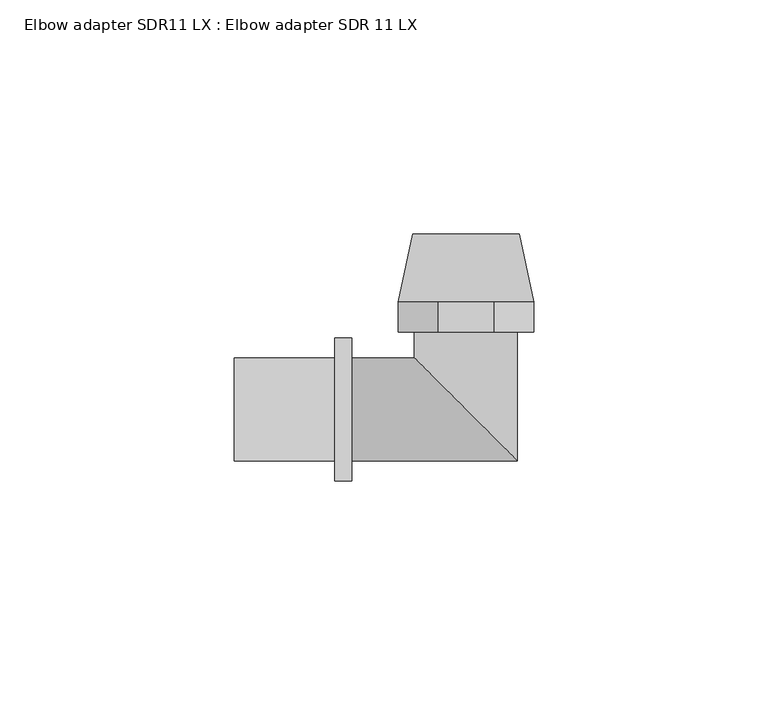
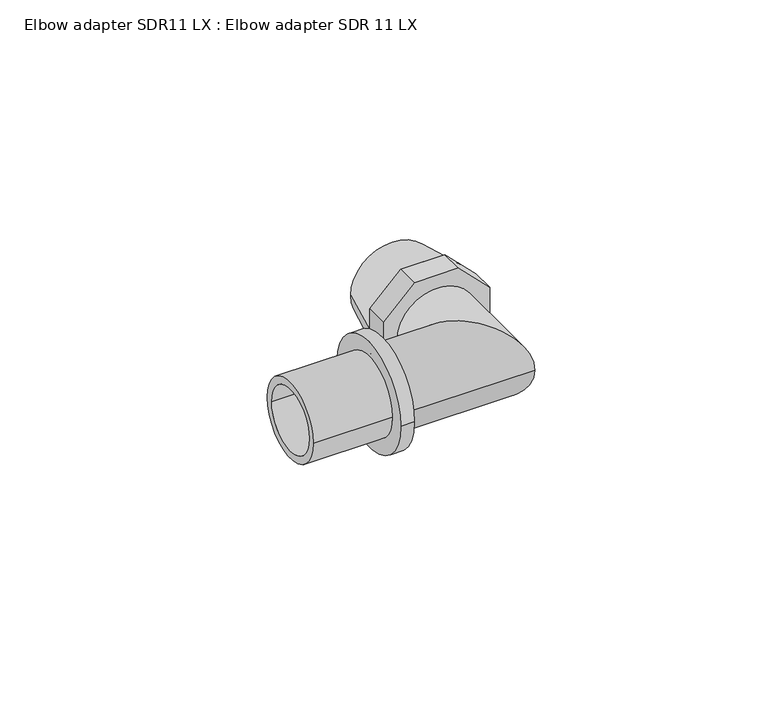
"""IFC4 building model written with IfcOpenShell, lengths in millimetres: pipe fitting geometry, Elbow adapter SDR11 LX : Elbow adapter SDR 11 LX."""

from ifc_helpers import new_model, si_unit, point, frame, origin, origin_2d, place, context, project, spatial, polyline, circle_curve, ellipse_curve, trimmed, segment, composite_curve, outline, extrude, source, transform, mapped, element, save
from ifc_brep_helpers import plane_surface, cylinder_surface, revolved_surface, advanced_brep


def elbow_adapter_sdr11_lx_elbow_adapter_sdr_11_lx_d02e2b3c(model_context):
    return source(origin(), model_context, "Body", "SolidModel", [
        extrude(outline(polyline([(-6.0060967, -14.5), (-14.5, -6.0060967), (-14.5, 6.0060967), (-6.0060967, 14.5), (6.0060967, 14.5), (14.5, 6.0060967), (14.5, -6.0060967), (6.0060967, -14.5), (-6.0060967, -14.5)]), holes=[composite_curve([segment(trimmed(circle_curve(origin_2d(), 9.5), [point((-9.5, 0.0))], [point((9.5, 0.0))], True, "CARTESIAN"), True, "CONTINUOUS"), segment(trimmed(circle_curve(origin_2d(), 9.5), [point((9.5, 0.0))], [point((-9.5, 0.0))], True, "CARTESIAN"), True, "CONTINUOUS")], self_intersect=False)]), frame((0.0, 16.6, 0.0), z_axis=(0.0, 1.0, 0.0), x_axis=(0.0, 0.0, 1.0)), (0.0, 0.0, 1.0), 6.4),
        advanced_brep(
        [(11.4, 37.5, 0.0), (-11.4, 37.5, 0.0), (0.0, 37.5, 9.5), (0.0, 37.5, -9.5), (14.5, 23.0, 0.0), (-14.5, 23.0, 0.0), (0.0, 23.0, -9.5), (0.0, 23.0, 9.5)],
        [
            (0, 1, circle_curve(frame((0.0, 37.5, 0.0), z_axis=(0.0, 1.0, 0.0), x_axis=(1.0, 0.0, 0.0)), 11.4)),
            (1, 0, circle_curve(frame((0.0, 37.5, 0.0), z_axis=(0.0, 1.0, 0.0), x_axis=(-1.0, 0.0, 0.0)), 11.4)),
            (2, 3, circle_curve(frame((0.0, 37.5, 0.0), z_axis=(0.0, -1.0, 0.0), x_axis=(0.0, 0.0, 1.0)), 9.5)),
            (3, 2, circle_curve(frame((0.0, 37.5, 0.0), z_axis=(0.0, -1.0, 0.0), x_axis=(0.0, 0.0, 1.0)), 9.5)),
            (4, 5, circle_curve(frame((0.0, 23.0, 0.0), z_axis=(0.0, -1.0, 0.0), x_axis=(-1.0, 0.0, 0.0)), 14.5)),
            (5, 4, circle_curve(frame((0.0, 23.0, 0.0), z_axis=(0.0, -1.0, 0.0), x_axis=(1.0, 0.0, 0.0)), 14.5)),
            (6, 7, circle_curve(frame((0.0, 23.0, 0.0), z_axis=(0.0, 1.0, 0.0), x_axis=(0.0, 0.0, 1.0)), 9.5)),
            (7, 6, circle_curve(frame((0.0, 23.0, 0.0), z_axis=(0.0, 1.0, 0.0), x_axis=(0.0, 0.0, 1.0)), 9.5)),
            (0, 4),
            (5, 1),
            (6, 3),
            (2, 7),
        ],
        [
            plane_surface(frame((0.0, 37.5, 0.0), z_axis=(0.0, 1.0, 0.0), x_axis=(0.0, 0.0, -1.0))),
            plane_surface(frame((0.0, 23.0, 0.0), z_axis=(0.0, -1.0, 0.0), x_axis=(0.0, 0.0, -1.0))),
            revolved_surface(polyline([(11.39999999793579, 37.50000000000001, 0.0), (14.5, 23.0, 0.0)]), (0.0, 90.8225806, 0.0), (0.0, -1.0, 0.0)),
            revolved_surface(polyline([(-11.39999999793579, 37.50000000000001, 0.0), (-14.5, 23.0, 0.0)]), (0.0, 90.8225806, 0.0), (0.0, -1.0, 0.0)),
            revolved_surface(polyline([(0.0, 37.5, 9.5), (0.0, 23.0, 9.5)]), (0.0, 16.6, 0.0), (0.0, 1.0, 0.0)),
        ],
        [
            (0, [[1, 2], [3, 4]]),
            (1, [[5, 6], [7, 8]]),
            (2, [[-1, 9, -6, 10]]),
            (3, [[-2, -10, -5, -9]]),
            (4, [[11, -3, 12, -7]]),
            (4, [[-11, -8, -12, -4]]),
        ],
    ),
        advanced_brep(
        [(-24.4, -11.0, 0.0), (-24.4, 11.0, 0.0), (-24.4, -8.9, 0.0), (-24.4, 8.9, 0.0), (11.0, -11.0, 0.0), (-11.0, 11.0, 0.0), (8.9, -8.9, 0.0), (-8.9, 8.9, 0.0), (11.0, 23.0, 0.0), (-11.0, 23.0, 0.0), (8.9, 23.0, 0.0), (-8.9, 23.0, 0.0)],
        [
            (0, 1, circle_curve(frame((-24.4, 0.0, 0.0), z_axis=(-1.0, 0.0, 0.0), x_axis=(0.0, 1.0, 0.0)), 11.0)),
            (1, 0, circle_curve(frame((-24.4, 0.0, 0.0), z_axis=(-1.0, 0.0, 0.0), x_axis=(0.0, 1.0, 0.0)), 11.0)),
            (2, 3, circle_curve(frame((-24.4, 0.0, 0.0), z_axis=(1.0, 0.0, 0.0), x_axis=(0.0, 1.0, 0.0)), 8.9)),
            (3, 2, circle_curve(frame((-24.4, 0.0, 0.0), z_axis=(1.0, 0.0, 0.0), x_axis=(0.0, 1.0, 0.0)), 8.9)),
            (0, 4),
            (4, 5, ellipse_curve(frame((0.0, 0.0, 0.0), z_axis=(-0.7071067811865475, -0.7071067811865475, 0.0), x_axis=(-0.7071067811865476, 0.7071067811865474, 0.0)), 15.5563492, 11.0)),
            (5, 1),
            (5, 4, ellipse_curve(frame((0.0, 0.0, 0.0), z_axis=(-0.7071067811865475, -0.7071067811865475, 0.0), x_axis=(-0.7071067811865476, 0.7071067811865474, 0.0)), 15.5563492, 11.0)),
            (2, 6),
            (6, 7, ellipse_curve(frame((0.0, 0.0, 0.0), z_axis=(0.7071067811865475, 0.7071067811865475, 0.0), x_axis=(0.7071067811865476, -0.7071067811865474, 0.0)), 12.5865007, 8.9)),
            (7, 3),
            (7, 6, ellipse_curve(frame((0.0, 0.0, 0.0), z_axis=(0.7071067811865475, 0.7071067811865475, 0.0), x_axis=(0.7071067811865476, -0.7071067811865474, 0.0)), 12.5865007, 8.9)),
            (8, 9, circle_curve(frame((0.0, 23.0, 0.0), z_axis=(0.0, 1.0, 0.0), x_axis=(-1.0, 0.0, 0.0)), 11.0)),
            (9, 8, circle_curve(frame((0.0, 23.0, 0.0), z_axis=(0.0, 1.0, 0.0), x_axis=(-1.0, 0.0, 0.0)), 11.0)),
            (10, 11, circle_curve(frame((0.0, 23.0, 0.0), z_axis=(0.0, -1.0, 0.0), x_axis=(-1.0, 0.0, 0.0)), 8.9)),
            (11, 10, circle_curve(frame((0.0, 23.0, 0.0), z_axis=(0.0, -1.0, 0.0), x_axis=(-1.0, 0.0, 0.0)), 8.9)),
            (4, 8),
            (9, 5),
            (6, 10),
            (11, 7),
        ],
        [
            plane_surface(frame((-24.4, 0.0, 0.0), z_axis=(-1.0, 0.0, 0.0), x_axis=(0.0, 0.0, 1.0))),
            cylinder_surface(frame((-24.4, 0.0, 0.0), z_axis=(-1.0, 0.0, 0.0), x_axis=(0.0, 1.0, 0.0)), 11.0),
            revolved_surface(polyline([(8.899999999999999, 8.9, 0.0), (-24.4, 8.9, 0.0)]), (-24.4, 0.0, 0.0), (1.0, 0.0, 0.0)),
            plane_surface(frame((0.0, 23.0, 0.0), z_axis=(0.0, 1.0, 0.0), x_axis=(0.0, 0.0, 1.0))),
            cylinder_surface(frame((0.0, 0.0, 0.0), z_axis=(0.0, -1.0, 0.0), x_axis=(-1.0, 0.0, 0.0)), 11.0),
            revolved_surface(polyline([(-8.9, 23.0, 0.0), (-8.9, -8.9, 0.0)]), (0.0, 0.0, 0.0), (0.0, 1.0, 0.0)),
        ],
        [
            (0, [[1, 2], [3, 4]]),
            (1, [[-1, 5, 6, 7]]),
            (1, [[-2, -7, 8, -5]]),
            (2, [[-3, 9, 10, 11]]),
            (2, [[-4, -11, 12, -9]]),
            (3, [[13, 14], [15, 16]]),
            (4, [[-6, 17, -14, 18]]),
            (4, [[-8, -18, -13, -17]]),
            (5, [[-10, 19, -16, 20]]),
            (5, [[-12, -20, -15, -19]]),
        ],
    ),
        advanced_brep(
        [(-24.4, 15.25, 0.0), (-24.4, -15.25, 0.0), (-28.0, -15.25, 0.0), (-28.0, 15.25, 0.0), (-28.0, 11.0, 0.0), (-28.0, -11.0, 0.0), (-49.5, -11.0, 0.0), (-49.5, 11.0, 0.0), (-49.5, 8.9, 0.0), (-49.5, -8.9, 0.0), (-24.4, -8.9, 0.0), (-24.4, 8.9, 0.0)],
        [
            (0, 1, circle_curve(frame((-24.4, 0.0, 0.0), z_axis=(-1.0, 0.0, 0.0), x_axis=(0.0, -1.0, 0.0)), 15.25)),
            (1, 2),
            (2, 3, circle_curve(frame((-28.0, 0.0, 0.0), z_axis=(1.0, 0.0, 0.0), x_axis=(0.0, -1.0, 0.0)), 15.25)),
            (3, 0),
            (4, 5, circle_curve(frame((-28.0, 0.0, 0.0), z_axis=(-1.0, 0.0, 0.0), x_axis=(0.0, -1.0, 0.0)), 11.0)),
            (5, 6),
            (6, 7, circle_curve(frame((-49.5, 0.0, 0.0), z_axis=(1.0, 0.0, 0.0), x_axis=(0.0, -1.0, 0.0)), 11.0)),
            (7, 4),
            (8, 9, circle_curve(frame((-49.5, 0.0, 0.0), z_axis=(-1.0, 0.0, 0.0), x_axis=(0.0, -1.0, 0.0)), 8.9)),
            (9, 10),
            (10, 11, circle_curve(frame((-24.4, 0.0, 0.0), z_axis=(1.0, 0.0, 0.0), x_axis=(0.0, -1.0, 0.0)), 8.9)),
            (11, 8),
            (0, 1, circle_curve(frame((-24.4, 0.0, 0.0), z_axis=(1.0, 0.0, 0.0), x_axis=(0.0, 1.0, 0.0)), 15.25)),
            (10, 11, circle_curve(frame((-24.4, 0.0, 0.0), z_axis=(-1.0, 0.0, 0.0), x_axis=(0.0, 1.0, 0.0)), 8.9)),
            (3, 2, circle_curve(frame((-28.0, 0.0, 0.0), z_axis=(1.0, 0.0, 0.0), x_axis=(0.0, 1.0, 0.0)), 15.25)),
            (4, 5, circle_curve(frame((-28.0, 0.0, 0.0), z_axis=(1.0, 0.0, 0.0), x_axis=(0.0, 1.0, 0.0)), 11.0)),
            (7, 6, circle_curve(frame((-49.5, 0.0, 0.0), z_axis=(1.0, 0.0, 0.0), x_axis=(0.0, 1.0, 0.0)), 11.0)),
            (8, 9, circle_curve(frame((-49.5, 0.0, 0.0), z_axis=(1.0, 0.0, 0.0), x_axis=(0.0, 1.0, 0.0)), 8.9)),
        ],
        [
            cylinder_surface(frame((0.0, 0.0, 0.0), z_axis=(1.0, 0.0, 0.0), x_axis=(0.0, -1.0, 0.0)), 15.25),
            cylinder_surface(frame((0.0, 0.0, 0.0), z_axis=(1.0, 0.0, 0.0), x_axis=(0.0, -1.0, 0.0)), 11.0),
            revolved_surface(polyline([(-24.4, -8.9, 0.0), (-49.5, -8.9, 0.0)]), (0.0, 0.0, 0.0), (1.0, 0.0, 0.0)),
            plane_surface(frame((-24.4, 0.0, 0.0), z_axis=(1.0, 0.0, 0.0), x_axis=(0.0, 1.0, 0.0))),
            cylinder_surface(frame((0.0, 0.0, 0.0), z_axis=(1.0, 0.0, 0.0), x_axis=(0.0, 1.0, 0.0)), 15.25),
            plane_surface(frame((-28.0, 0.0, 0.0), z_axis=(-1.0, 0.0, 0.0), x_axis=(0.0, 1.0, 0.0))),
            cylinder_surface(frame((0.0, 0.0, 0.0), z_axis=(1.0, 0.0, 0.0), x_axis=(0.0, 1.0, 0.0)), 11.0),
            plane_surface(frame((-49.5, 0.0, 0.0), z_axis=(-1.0, 0.0, 0.0), x_axis=(0.0, 1.0, 0.0))),
            revolved_surface(polyline([(-24.4, 8.9, 0.0), (-49.5, 8.9, 0.0)]), (0.0, 0.0, 0.0), (1.0, 0.0, 0.0)),
        ],
        [
            (0, [[1, 2, 3, 4]]),
            (1, [[5, 6, 7, 8]]),
            (2, [[9, 10, 11, 12]]),
            (3, [[13, -1], [14, -11]]),
            (4, [[-13, -4, 15, -2]]),
            (5, [[-15, -3], [16, -5]]),
            (6, [[-16, -8, 17, -6]]),
            (7, [[-17, -7], [18, -9]]),
            (8, [[-18, -12, -14, -10]]),
        ],
    ),
    ])


if __name__ == "__main__":
    model = new_model("IFC4")
    model_context = context("Model", 3, world=origin())
    ifc_project = project(units=[si_unit("LENGTHUNIT", "METRE", prefix="MILLI")], contexts=[model_context])
    site = spatial("IfcSite", under=ifc_project)
    building = spatial("IfcBuilding", under=site)
    placement = place(None, origin())
    elbow_adapter_sdr11_lx_elbow_adapter_sdr_11_lx_shape = elbow_adapter_sdr11_lx_elbow_adapter_sdr_11_lx_d02e2b3c(model_context)
    element("IfcPipeFitting", 1, ObjectType="Elbow adapter SDR11 LX : Elbow adapter SDR 11 LX", at=placement, inside=building, context=model_context, shape_type="MappedRepresentation", body=[
        mapped(elbow_adapter_sdr11_lx_elbow_adapter_sdr_11_lx_shape, transform((0.0, 0.0, 0.0), x_axis=(1.0, 0.0, 0.0), y_axis=(0.0, 1.0, 0.0), z_axis=(0.0, 0.0, 1.0))),
    ])
    save(model, "model.ifc")
